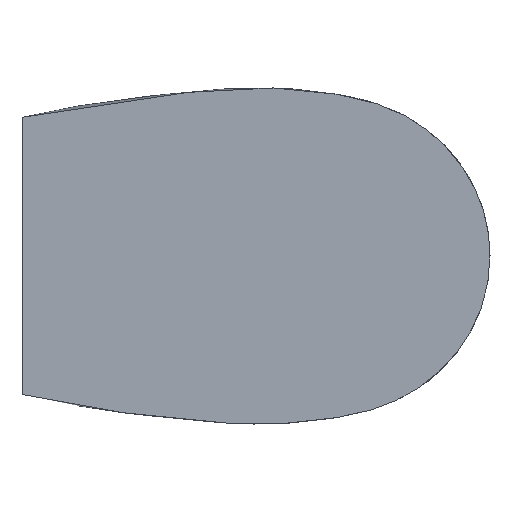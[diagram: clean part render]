
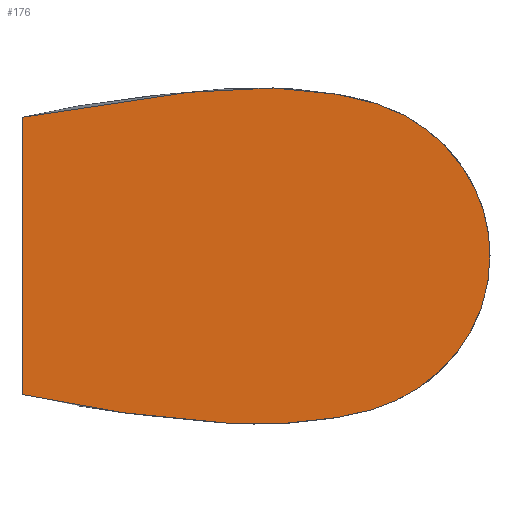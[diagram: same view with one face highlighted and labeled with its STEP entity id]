
A CAD part, left-side view. The second image highlights one B-rep face of the part: STEP entity #176.
In plain terms, the highlighted planar face has unit normal (-1, 0, 0).
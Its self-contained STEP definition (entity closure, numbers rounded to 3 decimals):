
#6=DIRECTION('',(0.,0.,1.));
#7=VECTOR('',#6,1.795);
#8=CARTESIAN_POINT('',(-9.,-0.3,-0.897));
#9=LINE('',#8,#7);
#10=CARTESIAN_POINT('',(-9.,-0.3,0.897));
#11=CARTESIAN_POINT('',(-9.,-0.421,0.925));
#12=CARTESIAN_POINT('',(-9.,-0.664,0.974));
#13=CARTESIAN_POINT('',(-9.,-0.971,1.019));
#14=CARTESIAN_POINT('',(-9.,-1.187,1.042));
#15=CARTESIAN_POINT('',(-9.,-1.312,1.053));
#16=CARTESIAN_POINT('',(-9.,-1.407,1.061));
#17=CARTESIAN_POINT('',(-9.,-1.503,1.071));
#18=CARTESIAN_POINT('',(-9.,-1.634,1.084));
#19=CARTESIAN_POINT('',(-9.,-1.816,1.091));
#20=CARTESIAN_POINT('',(-9.,-2.052,1.085));
#21=CARTESIAN_POINT('',(-9.,-2.264,1.06));
#22=CARTESIAN_POINT('',(-9.,-2.435,1.029));
#23=CARTESIAN_POINT('',(-9.,-2.608,0.988));
#24=CARTESIAN_POINT('',(-9.,-2.774,0.917));
#25=CARTESIAN_POINT('',(-9.,-2.924,0.818));
#26=CARTESIAN_POINT('',(-9.,-3.027,0.729));
#27=CARTESIAN_POINT('',(-9.,-3.117,0.628));
#28=CARTESIAN_POINT('',(-9.,-3.193,0.515));
#29=CARTESIAN_POINT('',(-9.,-3.254,0.394));
#30=CARTESIAN_POINT('',(-9.,-3.297,0.266));
#31=CARTESIAN_POINT('',(-9.,-3.324,0.134));
#32=CARTESIAN_POINT('',(-9.,-3.329,0.044));
#33=CARTESIAN_POINT('',(-9.,-3.329,0.));
#35=CARTESIAN_POINT('',(-9.,-3.329,0.));
#36=CARTESIAN_POINT('',(-9.,-3.329,-0.044));
#37=CARTESIAN_POINT('',(-9.,-3.324,-0.134));
#38=CARTESIAN_POINT('',(-9.,-3.297,-0.266));
#39=CARTESIAN_POINT('',(-9.,-3.254,-0.394));
#40=CARTESIAN_POINT('',(-9.,-3.193,-0.515));
#41=CARTESIAN_POINT('',(-9.,-3.117,-0.628));
#42=CARTESIAN_POINT('',(-9.,-3.027,-0.729));
#43=CARTESIAN_POINT('',(-9.,-2.924,-0.818));
#44=CARTESIAN_POINT('',(-9.,-2.774,-0.917));
#45=CARTESIAN_POINT('',(-9.,-2.608,-0.988));
#46=CARTESIAN_POINT('',(-9.,-2.435,-1.029));
#47=CARTESIAN_POINT('',(-9.,-2.264,-1.06));
#48=CARTESIAN_POINT('',(-9.,-2.052,-1.085));
#49=CARTESIAN_POINT('',(-9.,-1.816,-1.091));
#50=CARTESIAN_POINT('',(-9.,-1.634,-1.084));
#51=CARTESIAN_POINT('',(-9.,-1.503,-1.071));
#52=CARTESIAN_POINT('',(-9.,-1.407,-1.061));
#53=CARTESIAN_POINT('',(-9.,-1.312,-1.053));
#54=CARTESIAN_POINT('',(-9.,-1.187,-1.042));
#55=CARTESIAN_POINT('',(-9.,-0.971,-1.019));
#56=CARTESIAN_POINT('',(-9.,-0.664,-0.974));
#57=CARTESIAN_POINT('',(-9.,-0.421,-0.925));
#58=CARTESIAN_POINT('',(-9.,-0.3,-0.897));
#141=CARTESIAN_POINT('',(-9.,-0.3,-0.897));
#142=CARTESIAN_POINT('',(-9.,-0.3,0.897));
#143=VERTEX_POINT('',#141);
#144=VERTEX_POINT('',#142);
#145=VERTEX_POINT('',#35);
#164=CARTESIAN_POINT('',(-9.,0.,0.));
#165=DIRECTION('',(1.,0.,0.));
#166=DIRECTION('',(0.,0.,-1.));
#167=AXIS2_PLACEMENT_3D('',#164,#165,#166);
#168=PLANE('',#167);
#169=ORIENTED_EDGE('',*,*,#151,.T.);
#171=ORIENTED_EDGE('',*,*,#170,.T.);
#173=ORIENTED_EDGE('',*,*,#172,.T.);
#174=EDGE_LOOP('',(#169,#171,#173));
#175=FACE_OUTER_BOUND('',#174,.F.);
#176=ADVANCED_FACE('',(#175),#168,.F.);
#34=B_SPLINE_CURVE_WITH_KNOTS('',3,(#10,#11,#12,#13,#14,#15,#16,#17,#18,#19,#20,
#21,#22,#23,#24,#25,#26,#27,#28,#29,#30,#31,#32,#33),.UNSPECIFIED.,.F.,.F.,(4,1,
1,1,1,1,1,1,1,1,1,1,1,1,1,1,1,1,1,1,1,4),(0.,0.103,
0.204,0.256,0.282,0.308,
0.335,0.362,0.417,0.485,
0.556,0.593,0.629,0.703,
0.74,0.777,0.815,0.852,
0.889,0.926,0.963,1.),.UNSPECIFIED.);
#59=B_SPLINE_CURVE_WITH_KNOTS('',3,(#35,#36,#37,#38,#39,#40,#41,#42,#43,#44,#45,
#46,#47,#48,#49,#50,#51,#52,#53,#54,#55,#56,#57,#58),.UNSPECIFIED.,.F.,.F.,(4,1,
1,1,1,1,1,1,1,1,1,1,1,1,1,1,1,1,1,1,1,4),(0.,0.037,
0.074,0.111,0.148,0.185,
0.223,0.26,0.297,0.371,
0.407,0.444,0.515,0.583,
0.638,0.665,0.692,0.718,
0.744,0.796,0.897,1.),.UNSPECIFIED.);
#151=EDGE_CURVE('',#143,#144,#9,.T.);
#170=EDGE_CURVE('',#144,#145,#34,.T.);
#172=EDGE_CURVE('',#145,#143,#59,.T.);
